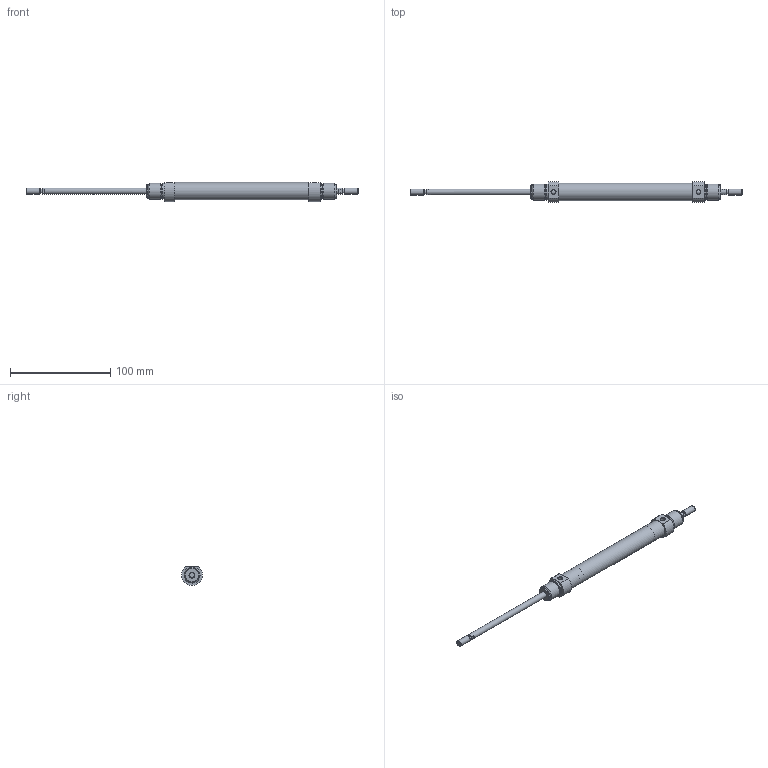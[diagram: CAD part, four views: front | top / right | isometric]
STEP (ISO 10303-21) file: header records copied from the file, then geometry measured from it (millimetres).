
FILE_DESCRIPTION( ( 'STEP AP203' ), '1' );
FILE_NAME( '//expscmdclustefs.cadenas.external/client_exchange/iodir/jobs/output/wkb68413118_no0/STEP/M101-016-0100-M__0__2_03.stp', ' ', ( ' ' ), ( ' ' ), 'PSStep 15.0.47', 'PARTsolutions', ' ' );
FILE_SCHEMA( ( 'CONFIG_CONTROL_DESIGN' ) );
Length unit declared in the file: millimetre
Products named in the file (3): M101-016-0100-M [0]; HI_M101-016-0100-M-[0]-z; HI_M101-016-0100-M-[0]-k
Assembly tree (2 placements, depth 2):
  M101-016-0100-M [0]
    HI_M101-016-0100-M-[0]-z
    HI_M101-016-0100-M-[0]-k
Bounding box: 332 x 20.94 x 19.09 mm (x, y, z)
Volume: 31810.4 mm3; surface area: 25427.7 mm2
Topology: 2 solids, 2 shells, 67 faces, 135 edges, 82 vertices
Faces by surface type: plane 28, cylinder 23, cone 14, torus 2
Full cylindrical faces by diameter (mm): 4.134 x2, 4.773 x2, 6 x6, 14.16 x4, 16 x6, 17.3 x1
Entity records: 1730 total; most frequent: CARTESIAN_POINT 334, DIRECTION 292, ORIENTED_EDGE 196, AXIS2_PLACEMENT_3D 132, EDGE_LOOP 116, EDGE_CURVE 98, FACE_OUTER_BOUND 90, VERTEX_POINT 78
